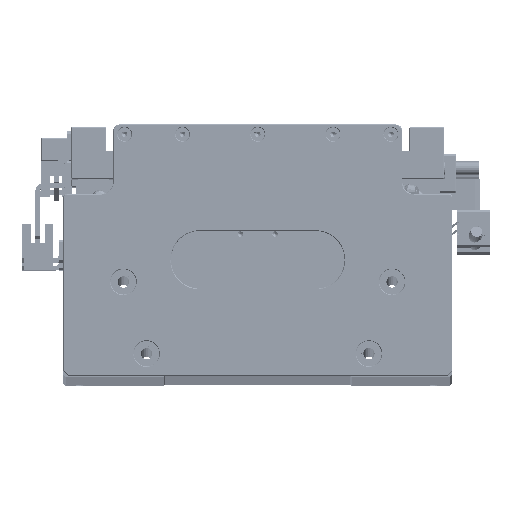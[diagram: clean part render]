
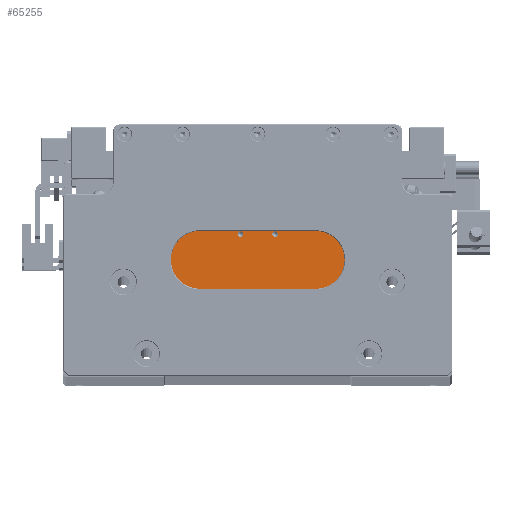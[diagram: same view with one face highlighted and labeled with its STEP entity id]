
A CAD part, top view. The second image highlights one B-rep face of the part: STEP entity #65255.
In plain terms, the highlighted planar face has unit normal (0, 0, 1).
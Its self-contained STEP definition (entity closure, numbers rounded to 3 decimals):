
#2161 = VECTOR ( 'NONE', #53677, 1000. ) ;
#5304 = AXIS2_PLACEMENT_3D ( 'NONE', #57764, #125893, #67563 ) ;
#5329 = LINE ( 'NONE', #34208, #105846 ) ;
#5674 = VERTEX_POINT ( 'NONE', #53840 ) ;
#10234 = ORIENTED_EDGE ( 'NONE', *, *, #11710, .T. ) ;
#11710 = EDGE_CURVE ( 'NONE', #18624, #92997, #111753, .T. ) ;
#13235 = LINE ( 'NONE', #53365, #87744 ) ;
#14035 = CIRCLE ( 'NONE', #5304, 1.25 ) ;
#14299 = DIRECTION ( 'NONE',  ( 0., 0., 1. ) ) ;
#14492 = EDGE_LOOP ( 'NONE', ( #94340, #49744 ) ) ;
#14815 = CARTESIAN_POINT ( 'NONE',  ( 45., -8., 125. ) ) ;
#14896 = CIRCLE ( 'NONE', #79221, 1.25 ) ;
#15496 = LINE ( 'NONE', #114375, #112969 ) ;
#15712 = DIRECTION ( 'NONE',  ( 0., 0., -1. ) ) ;
#16230 = LINE ( 'NONE', #95221, #116809 ) ;
#16860 = VECTOR ( 'NONE', #68029, 1000. ) ;
#17538 = EDGE_CURVE ( 'NONE', #18624, #24598, #5329, .T. ) ;
#18624 = VERTEX_POINT ( 'NONE', #88726 ) ;
#20802 = EDGE_CURVE ( 'NONE', #92997, #33667, #15496, .T. ) ;
#20910 = ORIENTED_EDGE ( 'NONE', *, *, #81055, .T. ) ;
#23623 = CARTESIAN_POINT ( 'NONE',  ( -33.5, -8., 125. ) ) ;
#24598 = VERTEX_POINT ( 'NONE', #80378 ) ;
#24797 = DIRECTION ( 'NONE',  ( 0., 0., -1. ) ) ;
#27637 = DIRECTION ( 'NONE',  ( 0., 1., 0. ) ) ;
#27841 = EDGE_CURVE ( 'NONE', #56120, #44438, #35087, .T. ) ;
#28967 = CARTESIAN_POINT ( 'NONE',  ( -8.75, -8., 125. ) ) ;
#30961 = CARTESIAN_POINT ( 'NONE',  ( -33.5, 0., 125. ) ) ;
#31334 = ORIENTED_EDGE ( 'NONE', *, *, #116230, .T. ) ;
#32876 = VERTEX_POINT ( 'NONE', #69924 ) ;
#33667 = VERTEX_POINT ( 'NONE', #98714 ) ;
#34208 = CARTESIAN_POINT ( 'NONE',  ( 45., -40.2, 125. ) ) ;
#34805 = AXIS2_PLACEMENT_3D ( 'NONE', #73991, #15712, #83706 ) ;
#35087 = LINE ( 'NONE', #30961, #86749 ) ;
#36724 = ORIENTED_EDGE ( 'NONE', *, *, #61769, .T. ) ;
#37513 = FACE_BOUND ( 'NONE', #60291, .T. ) ;
#39098 = EDGE_CURVE ( 'NONE', #94493, #32876, #14896, .T. ) ;
#40897 = EDGE_CURVE ( 'NONE', #33667, #5674, #16230, .T. ) ;
#41517 = CARTESIAN_POINT ( 'NONE',  ( 0., 0., 125. ) ) ;
#44438 = VERTEX_POINT ( 'NONE', #23623 ) ;
#46216 = DIRECTION ( 'NONE',  ( -1., 0., 0. ) ) ;
#47746 = CARTESIAN_POINT ( 'NONE',  ( -7.5, -8., 125. ) ) ;
#48869 = CARTESIAN_POINT ( 'NONE',  ( 6.25, -8., 125. ) ) ;
#49744 = ORIENTED_EDGE ( 'NONE', *, *, #39098, .T. ) ;
#53365 = CARTESIAN_POINT ( 'NONE',  ( 0., 0., 125. ) ) ;
#53677 = DIRECTION ( 'NONE',  ( 0., -1., 0. ) ) ;
#53840 = CARTESIAN_POINT ( 'NONE',  ( 33.5, 0., 125. ) ) ;
#53919 = LINE ( 'NONE', #121819, #2161 ) ;
#55086 = EDGE_CURVE ( 'NONE', #124923, #111687, #14035, .T. ) ;
#56120 = VERTEX_POINT ( 'NONE', #89235 ) ;
#57554 = DIRECTION ( 'NONE',  ( 1., 0., 0. ) ) ;
#57764 = CARTESIAN_POINT ( 'NONE',  ( 7.5, -8., 125. ) ) ;
#60291 = EDGE_LOOP ( 'NONE', ( #31334, #112248 ) ) ;
#60403 = FACE_BOUND ( 'NONE', #14492, .T. ) ;
#61769 = EDGE_CURVE ( 'NONE', #44438, #101355, #65581, .T. ) ;
#63164 = DIRECTION ( 'NONE',  ( -1., 0., 0. ) ) ;
#65165 = ORIENTED_EDGE ( 'NONE', *, *, #40897, .T. ) ;
#65255 = ADVANCED_FACE ( 'NONE', ( #86130, #37513, #60403 ), #109639, .T. ) ;
#65331 = DIRECTION ( 'NONE',  ( 0., 1., 0. ) ) ;
#65581 = LINE ( 'NONE', #77738, #16860 ) ;
#67563 = DIRECTION ( 'NONE',  ( 1., 0., 0. ) ) ;
#68029 = DIRECTION ( 'NONE',  ( -1., 0., 0. ) ) ;
#68429 = EDGE_LOOP ( 'NONE', ( #36724, #20910, #92557, #10234, #118731, #65165, #78545, #104881 ) ) ;
#69924 = CARTESIAN_POINT ( 'NONE',  ( -6.25, -8., 125. ) ) ;
#73991 = CARTESIAN_POINT ( 'NONE',  ( 7.5, -8., 125. ) ) ;
#75103 = CARTESIAN_POINT ( 'NONE',  ( 45., 0., 125. ) ) ;
#77738 = CARTESIAN_POINT ( 'NONE',  ( 0., -8., 125. ) ) ;
#78183 = EDGE_CURVE ( 'NONE', #5674, #56120, #13235, .T. ) ;
#78545 = ORIENTED_EDGE ( 'NONE', *, *, #78183, .T. ) ;
#79221 = AXIS2_PLACEMENT_3D ( 'NONE', #47746, #115905, #57554 ) ;
#80378 = CARTESIAN_POINT ( 'NONE',  ( -45., -40.2, 125. ) ) ;
#81055 = EDGE_CURVE ( 'NONE', #101355, #24598, #53919, .T. ) ;
#82293 = DIRECTION ( 'NONE',  ( 1., 0., 0. ) ) ;
#83004 = CARTESIAN_POINT ( 'NONE',  ( -7.5, -8., 125. ) ) ;
#83706 = DIRECTION ( 'NONE',  ( 1., 0., 0. ) ) ;
#85697 = VECTOR ( 'NONE', #65331, 1000. ) ;
#86130 = FACE_OUTER_BOUND ( 'NONE', #68429, .T. ) ;
#86749 = VECTOR ( 'NONE', #98960, 1000. ) ;
#86935 = CARTESIAN_POINT ( 'NONE',  ( -45., -8., 125. ) ) ;
#87744 = VECTOR ( 'NONE', #63164, 1000. ) ;
#88726 = CARTESIAN_POINT ( 'NONE',  ( 45., -40.2, 125. ) ) ;
#89235 = CARTESIAN_POINT ( 'NONE',  ( -33.5, 0., 125. ) ) ;
#90043 = CARTESIAN_POINT ( 'NONE',  ( 8.75, -8., 125. ) ) ;
#92557 = ORIENTED_EDGE ( 'NONE', *, *, #17538, .F. ) ;
#92780 = DIRECTION ( 'NONE',  ( 1., 0., 0. ) ) ;
#92997 = VERTEX_POINT ( 'NONE', #14815 ) ;
#94340 = ORIENTED_EDGE ( 'NONE', *, *, #100541, .T. ) ;
#94493 = VERTEX_POINT ( 'NONE', #28967 ) ;
#95221 = CARTESIAN_POINT ( 'NONE',  ( 33.5, 0., 125. ) ) ;
#98714 = CARTESIAN_POINT ( 'NONE',  ( 33.5, -8., 125. ) ) ;
#98960 = DIRECTION ( 'NONE',  ( 0., -1., 0. ) ) ;
#100249 = CIRCLE ( 'NONE', #34805, 1.25 ) ;
#100541 = EDGE_CURVE ( 'NONE', #32876, #94493, #107369, .T. ) ;
#101355 = VERTEX_POINT ( 'NONE', #86935 ) ;
#104881 = ORIENTED_EDGE ( 'NONE', *, *, #27841, .T. ) ;
#105846 = VECTOR ( 'NONE', #121901, 1000. ) ;
#107369 = CIRCLE ( 'NONE', #125811, 1.25 ) ;
#109639 = PLANE ( 'NONE',  #119471 ) ;
#111687 = VERTEX_POINT ( 'NONE', #90043 ) ;
#111753 = LINE ( 'NONE', #75103, #85697 ) ;
#112248 = ORIENTED_EDGE ( 'NONE', *, *, #55086, .T. ) ;
#112969 = VECTOR ( 'NONE', #46216, 1000. ) ;
#114375 = CARTESIAN_POINT ( 'NONE',  ( 0., -8., 125. ) ) ;
#115905 = DIRECTION ( 'NONE',  ( 0., 0., -1. ) ) ;
#116230 = EDGE_CURVE ( 'NONE', #111687, #124923, #100249, .T. ) ;
#116809 = VECTOR ( 'NONE', #27637, 1000. ) ;
#118731 = ORIENTED_EDGE ( 'NONE', *, *, #20802, .T. ) ;
#119471 = AXIS2_PLACEMENT_3D ( 'NONE', #41517, #14299, #82293 ) ;
#121819 = CARTESIAN_POINT ( 'NONE',  ( -45., 0., 125. ) ) ;
#121901 = DIRECTION ( 'NONE',  ( -1., 0., 0. ) ) ;
#124923 = VERTEX_POINT ( 'NONE', #48869 ) ;
#125811 = AXIS2_PLACEMENT_3D ( 'NONE', #83004, #24797, #92780 ) ;
#125893 = DIRECTION ( 'NONE',  ( 0., 0., -1. ) ) ;
